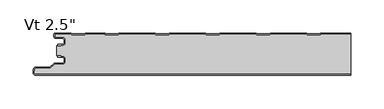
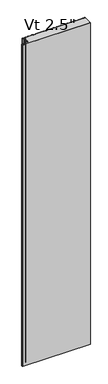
"""IFC4 building model written with IfcOpenShell, lengths in millimetres: plate geometry."""

from ifc_helpers import new_model, si_unit, point, frame, frame_2d, origin, origin_with_axes, place, context, project, spatial, polyline, circle_curve, trimmed, segment, composite_curve, outline, extrude, source, transform, mapped, element, save
from ifc_brep_helpers import plane_surface, cylinder_surface, revolved_surface, advanced_brep


def plate_cc331f6b(model_context):
    return source(origin(), model_context, "Body", "SolidModel", [
        advanced_brep(
        [(-219.9686911, -17.0015243, 2400.0), (-220.9686883, -18.0015275, 2400.0), (-219.9686911, -19.0015188, 2400.0), (-215.9684874, -19.0015188, 2400.0), (-215.9684874, -18.0015243, 2400.0), (-213.2762776, -18.0015243, 2400.0), (-209.9762819, -14.7015286, 2400.0), (-209.9762819, -10.3015374, 2400.0), (-213.2762774, -7.0015419, 2400.0), (-223.6962563, -7.0015419, 2400.0), (-225.4662505, -5.2315477, 2400.0), (-225.4662505, -1.0, 2400.0), (-200.9659739, -1.0, 2400.0), (-199.5803313, -2.2002391, 2400.0), (-180.205165, -2.2002391, 2400.0), (-178.819532, -1.0000084, 2400.0), (-150.1661166, -1.0000084, 2400.0), (-148.7804837, -2.2002391, 2400.0), (-129.4053174, -2.2002391, 2400.0), (-128.0196844, -1.0000084, 2400.0), (-73.966269, -1.0000084, 2400.0), (-72.5806361, -2.2002391, 2400.0), (-53.2054698, -2.2002391, 2400.0), (-51.8198368, -1.0000084, 2400.0), (2.2335786, -1.0000084, 2400.0), (3.6192115, -2.2002391, 2400.0), (22.9943778, -2.2002391, 2400.0), (24.3800108, -1.0000084, 2400.0), (78.4334262, -1.0000084, 2400.0), (79.8190591, -2.2002391, 2400.0), (99.1942254, -2.2002391, 2400.0), (100.5798584, -1.0000084, 2400.0), (154.6332738, -1.0000084, 2400.0), (156.0189067, -2.2002391, 2400.0), (175.394073, -2.2002391, 2400.0), (176.779706, -1.0000084, 2400.0), (221.9999998, -1.0000084, 2400.0), (221.9999998, -8.4e-06, 2400.0), (176.9288571, -8.4e-06, 2400.0), (176.0122402, -0.3417969, 2400.0), (175.0211926, -1.2002391, 2400.0), (156.3917872, -1.2002391, 2400.0), (155.4007395, -0.3417969, 2400.0), (154.4841226, -8.4e-06, 2400.0), (100.7290095, -8.4e-06, 2400.0), (99.8123926, -0.3417969, 2400.0), (98.821345, -1.2002391, 2400.0), (80.1919396, -1.2002391, 2400.0), (79.2008919, -0.3417969, 2400.0), (78.284275, -8.4e-06, 2400.0), (24.5291619, -8.4e-06, 2400.0), (23.612545, -0.3417969, 2400.0), (22.6214974, -1.2002391, 2400.0), (3.992092, -1.2002391, 2400.0), (3.0010443, -0.3417969, 2400.0), (2.0844274, -8.4e-06, 2400.0), (-51.6706857, -8.4e-06, 2400.0), (-52.5873026, -0.3417969, 2400.0), (-53.5783502, -1.2002391, 2400.0), (-72.2077556, -1.2002391, 2400.0), (-73.1988033, -0.3417969, 2400.0), (-74.1154202, -8.4e-06, 2400.0), (-127.8705333, -8.4e-06, 2400.0), (-128.7871502, -0.3417969, 2400.0), (-129.7781978, -1.2002391, 2400.0), (-148.4076032, -1.2002391, 2400.0), (-149.3986509, -0.3417969, 2400.0), (-150.3152678, -8.4e-06, 2400.0), (-178.6703809, -8.4e-06, 2400.0), (-179.5869978, -0.3417969, 2400.0), (-180.5780454, -1.2002391, 2400.0), (-199.2074508, -1.2002391, 2400.0), (-200.1984985, -0.3417969, 2400.0), (-201.1152068, -8.4e-06, 2400.0), (-225.0662544, 0.0, 2400.0), (-226.4662505, -1.3999962, 2400.0), (-226.4662505, -5.2315477, 2400.0), (-223.6962563, -8.0015419, 2400.0), (-213.2762774, -8.0015419, 2400.0), (-210.9762819, -10.3015374, 2400.0), (-210.9762819, -14.7015286, 2400.0), (-213.2762776, -17.0015243, 2400.0), (-219.9686911, -17.0015243, 0.0), (-213.2762776, -17.0015243, 0.0), (-210.9762819, -14.7015286, 0.0), (-210.9762819, -10.3015374, 0.0), (-213.2762774, -8.0015419, 0.0), (-223.6962563, -8.0015419, 0.0), (-226.4662505, -5.2315477, 0.0), (-226.4662505, -1.3999962, 0.0), (-225.0662544, 0.0, 0.0), (-201.1151154, 0.0, 0.0), (-200.1984985, -0.3417969, 0.0), (-199.2074508, -1.2002391, 0.0), (-180.5780454, -1.2002391, 0.0), (-179.5869978, -0.3417969, 0.0), (-178.6703809, -8.4e-06, 0.0), (-150.3152678, -8.4e-06, 0.0), (-149.3986509, -0.3417969, 0.0), (-148.4076032, -1.2002391, 0.0), (-129.7781978, -1.2002391, 0.0), (-128.7871502, -0.3417969, 0.0), (-127.8705333, -8.4e-06, 0.0), (-74.1154202, -8.4e-06, 0.0), (-73.1988033, -0.3417969, 0.0), (-72.2077556, -1.2002391, 0.0), (-53.5783502, -1.2002391, 0.0), (-52.5873026, -0.3417969, 0.0), (-51.6706857, -8.4e-06, 0.0), (2.0844274, -8.4e-06, 0.0), (3.0010443, -0.3417969, 0.0), (3.992092, -1.2002391, 0.0), (22.6214974, -1.2002391, 0.0), (23.612545, -0.3417969, 0.0), (24.5291619, -8.4e-06, 0.0), (78.284275, -8.4e-06, 0.0), (79.2008919, -0.3417969, 0.0), (80.1919396, -1.2002391, 0.0), (98.821345, -1.2002391, 0.0), (99.8123926, -0.3417969, 0.0), (100.7290095, -8.4e-06, 0.0), (154.4841226, -8.4e-06, 0.0), (155.4007395, -0.3417969, 0.0), (156.3917872, -1.2002391, 0.0), (175.0211926, -1.2002391, 0.0), (176.0122402, -0.3417969, 0.0), (176.9288571, -8.4e-06, 0.0), (221.9999998, -8.4e-06, 0.0), (221.9999998, -1.0000084, 0.0), (176.779706, -1.0000084, 0.0), (175.394073, -2.2002391, 0.0), (156.0189067, -2.2002391, 0.0), (154.6332738, -1.0000084, 0.0), (100.5798584, -1.0000084, 0.0), (99.1942254, -2.2002391, 0.0), (79.8190591, -2.2002391, 0.0), (78.4334262, -1.0000084, 0.0), (24.3800108, -1.0000084, 0.0), (22.9943778, -2.2002391, 0.0), (3.6192115, -2.2002391, 0.0), (2.2335786, -1.0000084, 0.0), (-51.8198368, -1.0000084, 0.0), (-53.2054698, -2.2002391, 0.0), (-72.5806361, -2.2002391, 0.0), (-73.966269, -1.0000084, 0.0), (-128.0196844, -1.0000084, 0.0), (-129.4053174, -2.2002391, 0.0), (-148.7804837, -2.2002391, 0.0), (-150.1661166, -1.0000084, 0.0), (-178.819532, -1.0000084, 0.0), (-180.205165, -2.2002391, 0.0), (-199.5803313, -2.2002391, 0.0), (-200.9659739, -1.0, 0.0), (-225.4662505, -1.0, 0.0), (-225.4662505, -5.2315477, 0.0), (-223.6962563, -7.0015419, 0.0), (-213.2762774, -7.0015419, 0.0), (-209.9762819, -10.3015374, 0.0), (-209.9762819, -14.7015286, 0.0), (-213.2762776, -18.0015243, 0.0), (-215.9684874, -18.0015243, 0.0), (-215.9684874, -19.0015188, 0.0), (-219.9686911, -19.0015188, 0.0), (-220.9686883, -18.0015275, 0.0)],
        [
            (0, 1, circle_curve(frame((-219.9686911, -18.0015215, 2400.0), z_axis=(0.0, 0.0, 1.0), x_axis=(1.0, 0.0, 0.0)), 0.9999973)),
            (1, 2, circle_curve(frame((-219.9686911, -18.0015216, 2400.0), z_axis=(0.0, 0.0, 1.0), x_axis=(1.0, 0.0, 0.0)), 0.9999972)),
            (2, 3),
            (3, 4),
            (4, 5),
            (5, 6, circle_curve(frame((-213.2762776, -14.7015286, 2400.0), z_axis=(0.0, 0.0, 1.0), x_axis=(1.0, 0.0, 0.0)), 3.2999957)),
            (6, 7),
            (7, 8, circle_curve(frame((-213.2762774, -10.3015374, 2400.0), z_axis=(0.0, 0.0, 1.0), x_axis=(1.0, 0.0, 0.0)), 3.2999955)),
            (8, 9),
            (9, 10, circle_curve(frame((-223.6962563, -5.2315477, 2400.0), z_axis=(0.0, 0.0, -1.0), x_axis=(1.0, 0.0, 0.0)), 1.7699942)),
            (10, 11),
            (11, 12),
            (12, 13),
            (13, 14),
            (14, 15),
            (15, 16),
            (16, 17),
            (17, 18),
            (18, 19),
            (19, 20),
            (20, 21),
            (21, 22),
            (22, 23),
            (23, 24),
            (24, 25),
            (25, 26),
            (26, 27),
            (27, 28),
            (28, 29),
            (29, 30),
            (30, 31),
            (31, 32),
            (32, 33),
            (33, 34),
            (34, 35),
            (35, 36),
            (36, 37),
            (37, 38),
            (38, 39, circle_curve(frame((176.9288571, -1.4000056, 2400.0), z_axis=(0.0, 0.0, 1.0), x_axis=(1.0, 0.0, 0.0)), 1.3999972)),
            (39, 40),
            (40, 41),
            (41, 42),
            (42, 43, circle_curve(frame((154.4841226, -1.4000056, 2400.0), z_axis=(0.0, 0.0, 1.0), x_axis=(1.0, 0.0, 0.0)), 1.3999972)),
            (43, 44),
            (44, 45, circle_curve(frame((100.7290095, -1.4000056, 2400.0), z_axis=(0.0, 0.0, 1.0), x_axis=(1.0, 0.0, 0.0)), 1.3999972)),
            (45, 46),
            (46, 47),
            (47, 48),
            (48, 49, circle_curve(frame((78.284275, -1.4000056, 2400.0), z_axis=(0.0, 0.0, 1.0), x_axis=(1.0, 0.0, 0.0)), 1.3999972)),
            (49, 50),
            (50, 51, circle_curve(frame((24.5291619, -1.4000056, 2400.0), z_axis=(0.0, 0.0, 1.0), x_axis=(1.0, 0.0, 0.0)), 1.3999972)),
            (51, 52),
            (52, 53),
            (53, 54),
            (54, 55, circle_curve(frame((2.0844274, -1.4000056, 2400.0), z_axis=(0.0, 0.0, 1.0), x_axis=(1.0, 0.0, 0.0)), 1.3999972)),
            (55, 56),
            (56, 57, circle_curve(frame((-51.6706857, -1.4000056, 2400.0), z_axis=(0.0, 0.0, 1.0), x_axis=(1.0, 0.0, 0.0)), 1.3999972)),
            (57, 58),
            (58, 59),
            (59, 60),
            (60, 61, circle_curve(frame((-74.1154202, -1.4000056, 2400.0), z_axis=(0.0, 0.0, 1.0), x_axis=(1.0, 0.0, 0.0)), 1.3999972)),
            (61, 62),
            (62, 63, circle_curve(frame((-127.8705333, -1.4000056, 2400.0), z_axis=(0.0, 0.0, 1.0), x_axis=(1.0, 0.0, 0.0)), 1.3999972)),
            (63, 64),
            (64, 65),
            (65, 66),
            (66, 67, circle_curve(frame((-150.3152678, -1.4000056, 2400.0), z_axis=(0.0, 0.0, 1.0), x_axis=(1.0, 0.0, 0.0)), 1.3999972)),
            (67, 68),
            (68, 69, circle_curve(frame((-178.6703809, -1.4000056, 2400.0), z_axis=(0.0, 0.0, 1.0), x_axis=(1.0, 0.0, 0.0)), 1.3999972)),
            (69, 70),
            (70, 71),
            (71, 72),
            (72, 73, circle_curve(frame((-201.1151154, -1.4000056, 2400.0), z_axis=(0.0, 0.0, 1.0), x_axis=(1.0, 0.0, 0.0)), 1.3999972)),
            (73, 74),
            (74, 75, circle_curve(frame((-225.0662544, -1.3999962, 2400.0), z_axis=(0.0, 0.0, 1.0), x_axis=(1.0, 0.0, 0.0)), 1.3999962)),
            (75, 76),
            (76, 77, circle_curve(frame((-223.6962563, -5.2315477, 2400.0), z_axis=(0.0, 0.0, 1.0), x_axis=(1.0, 0.0, 0.0)), 2.7699942)),
            (77, 78),
            (78, 79, circle_curve(frame((-213.2762774, -10.3015374, 2400.0), z_axis=(0.0, 0.0, -1.0), x_axis=(1.0, 0.0, 0.0)), 2.2999955)),
            (79, 80),
            (80, 81, circle_curve(frame((-213.2762776, -14.7015286, 2400.0), z_axis=(0.0, 0.0, -1.0), x_axis=(1.0, 0.0, 0.0)), 2.2999957)),
            (81, 0),
            (82, 83),
            (83, 84, circle_curve(frame((-213.2762776, -14.7015286, 0.0), z_axis=(0.0, 0.0, 1.0), x_axis=(1.0, 0.0, 0.0)), 2.2999957)),
            (84, 85),
            (85, 86, circle_curve(frame((-213.2762774, -10.3015374, 0.0), z_axis=(0.0, 0.0, 1.0), x_axis=(1.0, 0.0, 0.0)), 2.2999955)),
            (86, 87),
            (87, 88, circle_curve(frame((-223.6962563, -5.2315477, 0.0), z_axis=(0.0, 0.0, -1.0), x_axis=(1.0, 0.0, 0.0)), 2.7699942)),
            (88, 89),
            (89, 90, circle_curve(frame((-225.0662544, -1.3999962, 0.0), z_axis=(0.0, 0.0, -1.0), x_axis=(1.0, 0.0, 0.0)), 1.3999962)),
            (90, 91),
            (91, 92, circle_curve(frame((-201.1151154, -1.4000056, 0.0), z_axis=(0.0, 0.0, -1.0), x_axis=(1.0, 0.0, 0.0)), 1.3999972)),
            (92, 93),
            (93, 94),
            (94, 95),
            (95, 96, circle_curve(frame((-178.6703809, -1.4000056, 0.0), z_axis=(0.0, 0.0, -1.0), x_axis=(1.0, 0.0, 0.0)), 1.3999972)),
            (96, 97),
            (97, 98, circle_curve(frame((-150.3152678, -1.4000056, 0.0), z_axis=(0.0, 0.0, -1.0), x_axis=(1.0, 0.0, 0.0)), 1.3999972)),
            (98, 99),
            (99, 100),
            (100, 101),
            (101, 102, circle_curve(frame((-127.8705333, -1.4000056, 0.0), z_axis=(0.0, 0.0, -1.0), x_axis=(1.0, 0.0, 0.0)), 1.3999972)),
            (102, 103),
            (103, 104, circle_curve(frame((-74.1154202, -1.4000056, 0.0), z_axis=(0.0, 0.0, -1.0), x_axis=(1.0, 0.0, 0.0)), 1.3999972)),
            (104, 105),
            (105, 106),
            (106, 107),
            (107, 108, circle_curve(frame((-51.6706857, -1.4000056, 0.0), z_axis=(0.0, 0.0, -1.0), x_axis=(1.0, 0.0, 0.0)), 1.3999972)),
            (108, 109),
            (109, 110, circle_curve(frame((2.0844274, -1.4000056, 0.0), z_axis=(0.0, 0.0, -1.0), x_axis=(1.0, 0.0, 0.0)), 1.3999972)),
            (110, 111),
            (111, 112),
            (112, 113),
            (113, 114, circle_curve(frame((24.5291619, -1.4000056, 0.0), z_axis=(0.0, 0.0, -1.0), x_axis=(1.0, 0.0, 0.0)), 1.3999972)),
            (114, 115),
            (115, 116, circle_curve(frame((78.284275, -1.4000056, 0.0), z_axis=(0.0, 0.0, -1.0), x_axis=(1.0, 0.0, 0.0)), 1.3999972)),
            (116, 117),
            (117, 118),
            (118, 119),
            (119, 120, circle_curve(frame((100.7290095, -1.4000056, 0.0), z_axis=(0.0, 0.0, -1.0), x_axis=(1.0, 0.0, 0.0)), 1.3999972)),
            (120, 121),
            (121, 122, circle_curve(frame((154.4841226, -1.4000056, 0.0), z_axis=(0.0, 0.0, -1.0), x_axis=(1.0, 0.0, 0.0)), 1.3999972)),
            (122, 123),
            (123, 124),
            (124, 125),
            (125, 126, circle_curve(frame((176.9288571, -1.4000056, 0.0), z_axis=(0.0, 0.0, -1.0), x_axis=(1.0, 0.0, 0.0)), 1.3999972)),
            (126, 127),
            (127, 128),
            (128, 129),
            (129, 130),
            (130, 131),
            (131, 132),
            (132, 133),
            (133, 134),
            (134, 135),
            (135, 136),
            (136, 137),
            (137, 138),
            (138, 139),
            (139, 140),
            (140, 141),
            (141, 142),
            (142, 143),
            (143, 144),
            (144, 145),
            (145, 146),
            (146, 147),
            (147, 148),
            (148, 149),
            (149, 150),
            (150, 151),
            (151, 152),
            (152, 153),
            (153, 154),
            (154, 155, circle_curve(frame((-223.6962563, -5.2315477, 0.0), z_axis=(0.0, 0.0, 1.0), x_axis=(1.0, 0.0, 0.0)), 1.7699942)),
            (155, 156),
            (156, 157, circle_curve(frame((-213.2762774, -10.3015374, 0.0), z_axis=(0.0, 0.0, -1.0), x_axis=(1.0, 0.0, 0.0)), 3.2999955)),
            (157, 158),
            (158, 159, circle_curve(frame((-213.2762776, -14.7015286, 0.0), z_axis=(0.0, 0.0, -1.0), x_axis=(1.0, 0.0, 0.0)), 3.2999957)),
            (159, 160),
            (160, 161),
            (161, 162),
            (162, 163, circle_curve(frame((-219.9686911, -18.0015216, 0.0), z_axis=(0.0, 0.0, -1.0), x_axis=(1.0, 0.0, 0.0)), 0.9999972)),
            (163, 82, circle_curve(frame((-219.9686911, -18.0015215, 0.0), z_axis=(0.0, 0.0, -1.0), x_axis=(1.0, 0.0, 0.0)), 0.9999973)),
            (36, 128),
            (127, 37),
            (81, 83),
            (82, 0),
            (80, 84),
            (79, 85),
            (78, 86),
            (77, 87),
            (76, 88),
            (75, 89),
            (74, 90),
            (73, 91),
            (72, 92),
            (71, 93),
            (70, 94),
            (69, 95),
            (68, 96),
            (67, 97),
            (66, 98),
            (65, 99),
            (64, 100),
            (63, 101),
            (62, 102),
            (61, 103),
            (60, 104),
            (59, 105),
            (58, 106),
            (57, 107),
            (56, 108),
            (55, 109),
            (54, 110),
            (53, 111),
            (52, 112),
            (51, 113),
            (50, 114),
            (49, 115),
            (48, 116),
            (47, 117),
            (46, 118),
            (45, 119),
            (44, 120),
            (43, 121),
            (42, 122),
            (41, 123),
            (40, 124),
            (39, 125),
            (38, 126),
            (35, 129),
            (34, 130),
            (33, 131),
            (32, 132),
            (31, 133),
            (30, 134),
            (29, 135),
            (28, 136),
            (27, 137),
            (26, 138),
            (25, 139),
            (24, 140),
            (23, 141),
            (22, 142),
            (21, 143),
            (20, 144),
            (19, 145),
            (18, 146),
            (17, 147),
            (16, 148),
            (15, 149),
            (14, 150),
            (13, 151),
            (12, 152),
            (11, 153),
            (10, 154),
            (9, 155),
            (8, 156),
            (7, 157),
            (6, 158),
            (5, 159),
            (4, 160),
            (3, 161),
            (2, 162),
            (1, 163),
        ],
        [
            plane_surface(frame((286.0000002, -8.4e-06, 2400.0), z_axis=(0.0, 0.0, 1.0), x_axis=(0.0, 1.0, 0.0))),
            plane_surface(frame((286.0000002, -8.4e-06, 0.0), z_axis=(0.0, 0.0, -1.0), x_axis=(0.0, 1.0, 0.0))),
            plane_surface(frame((221.9999998, -73.5000084, 2400.0), z_axis=(1.0, 0.0, 0.0), x_axis=(0.0, 0.0, -1.0))),
            plane_surface(frame((-219.9686911, -17.0015243, 2400.0), z_axis=(0.0, 1.0, 0.0), x_axis=(0.0, 0.0, -1.0))),
            revolved_surface(polyline([(-210.97628189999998, -14.7015286, 0.0), (-210.97628189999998, -14.7015286, 2400.0)]), (-213.2762776, -14.7015286, 2400.0), (0.0, 0.0, -1.0)),
            plane_surface(frame((-210.9762819, -14.7015286, 2400.0), z_axis=(-1.0, 0.0, 0.0), x_axis=(0.0, 0.0, -1.0))),
            revolved_surface(polyline([(-210.9762819, -10.3015374, 0.0), (-210.9762819, -10.3015374, 2400.0)]), (-213.2762774, -10.3015374, 2400.0), (0.0, 0.0, -1.0)),
            plane_surface(frame((-213.2762774, -8.0015419, 2400.0), z_axis=(0.0, -1.0, 0.0), x_axis=(0.0, 0.0, -1.0))),
            cylinder_surface(frame((-223.6962563, -5.2315477, 2400.0), z_axis=(0.0, 0.0, 1.0), x_axis=(1.0, 0.0, 0.0)), 2.7699942),
            plane_surface(frame((-226.4662505, -5.2315477, 2400.0), z_axis=(-1.0, 0.0, 0.0), x_axis=(0.0, 0.0, -1.0))),
            cylinder_surface(frame((-225.0662544, -1.3999962, 2400.0), z_axis=(0.0, 0.0, 1.0), x_axis=(1.0, 0.0, 0.0)), 1.3999962),
            plane_surface(frame((-225.0662544, 0.0, 2400.0), z_axis=(0.0, 1.0, 0.0), x_axis=(0.0, 0.0, -1.0))),
            cylinder_surface(frame((-201.1151154, -1.4000056, 2400.0), z_axis=(0.0, 0.0, 1.0), x_axis=(1.0, 0.0, 0.0)), 1.3999972),
            plane_surface(frame((-200.1984985, -0.3417969, 2400.0), z_axis=(0.6547276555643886, 0.755864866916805, 0.0), x_axis=(0.0, 0.0, -1.0))),
            plane_surface(frame((-189.8927481, -1.2002391, 2400.0), z_axis=(0.0, 1.0, 0.0), x_axis=(0.0, 0.0, -1.0))),
            plane_surface(frame((-180.5780454, -1.2002391, 2400.0), z_axis=(-0.6547276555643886, 0.755864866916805, 0.0), x_axis=(0.0, 0.0, -1.0))),
            cylinder_surface(frame((-178.6703809, -1.4000056, 2400.0), z_axis=(0.0, 0.0, 1.0), x_axis=(1.0, 0.0, 0.0)), 1.3999972),
            plane_surface(frame((-178.6703809, -8.4e-06, 2400.0), z_axis=(0.0, 1.0, 0.0), x_axis=(0.0, 0.0, -1.0))),
            cylinder_surface(frame((-150.3152678, -1.4000056, 2400.0), z_axis=(0.0, 0.0, 1.0), x_axis=(1.0, 0.0, 0.0)), 1.3999972),
            plane_surface(frame((-149.3986509, -0.3417969, 2400.0), z_axis=(0.6547276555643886, 0.755864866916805, 0.0), x_axis=(0.0, 0.0, -1.0))),
            plane_surface(frame((-139.0929005, -1.2002391, 2400.0), z_axis=(0.0, 1.0, 0.0), x_axis=(0.0, 0.0, -1.0))),
            plane_surface(frame((-129.7781978, -1.2002391, 2400.0), z_axis=(-0.6547276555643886, 0.755864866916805, 0.0), x_axis=(0.0, 0.0, -1.0))),
            cylinder_surface(frame((-127.8705333, -1.4000056, 2400.0), z_axis=(0.0, 0.0, 1.0), x_axis=(1.0, 0.0, 0.0)), 1.3999972),
            plane_surface(frame((-127.8705333, -8.4e-06, 2400.0), z_axis=(0.0, 1.0, 0.0), x_axis=(0.0, 0.0, -1.0))),
            cylinder_surface(frame((-74.1154202, -1.4000056, 2400.0), z_axis=(0.0, 0.0, 1.0), x_axis=(1.0, 0.0, 0.0)), 1.3999972),
            plane_surface(frame((-73.1988033, -0.3417969, 2400.0), z_axis=(0.6547276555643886, 0.755864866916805, 0.0), x_axis=(0.0, 0.0, -1.0))),
            plane_surface(frame((-62.8930529, -1.2002391, 2400.0), z_axis=(0.0, 1.0, 0.0), x_axis=(0.0, 0.0, -1.0))),
            plane_surface(frame((-53.5783502, -1.2002391, 2400.0), z_axis=(-0.6547276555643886, 0.755864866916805, 0.0), x_axis=(0.0, 0.0, -1.0))),
            cylinder_surface(frame((-51.6706857, -1.4000056, 2400.0), z_axis=(0.0, 0.0, 1.0), x_axis=(1.0, 0.0, 0.0)), 1.3999972),
            plane_surface(frame((-51.6706857, -8.4e-06, 2400.0), z_axis=(0.0, 1.0, 0.0), x_axis=(0.0, 0.0, -1.0))),
            cylinder_surface(frame((2.0844274, -1.4000056, 2400.0), z_axis=(0.0, 0.0, 1.0), x_axis=(1.0, 0.0, 0.0)), 1.3999972),
            plane_surface(frame((3.0010443, -0.3417969, 2400.0), z_axis=(0.6547276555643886, 0.755864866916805, 0.0), x_axis=(0.0, 0.0, -1.0))),
            plane_surface(frame((13.3067947, -1.2002391, 2400.0), z_axis=(0.0, 1.0, 0.0), x_axis=(0.0, 0.0, -1.0))),
            plane_surface(frame((22.6214974, -1.2002391, 2400.0), z_axis=(-0.6547276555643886, 0.755864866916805, 0.0), x_axis=(0.0, 0.0, -1.0))),
            cylinder_surface(frame((24.5291619, -1.4000056, 2400.0), z_axis=(0.0, 0.0, 1.0), x_axis=(1.0, 0.0, 0.0)), 1.3999972),
            plane_surface(frame((24.5291619, -8.4e-06, 2400.0), z_axis=(0.0, 1.0, 0.0), x_axis=(0.0, 0.0, -1.0))),
            cylinder_surface(frame((78.284275, -1.4000056, 2400.0), z_axis=(0.0, 0.0, 1.0), x_axis=(1.0, 0.0, 0.0)), 1.3999972),
            plane_surface(frame((79.2008919, -0.3417969, 2400.0), z_axis=(0.6547276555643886, 0.755864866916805, 0.0), x_axis=(0.0, 0.0, -1.0))),
            plane_surface(frame((89.5066423, -1.2002391, 2400.0), z_axis=(0.0, 1.0, 0.0), x_axis=(0.0, 0.0, -1.0))),
            plane_surface(frame((98.821345, -1.2002391, 2400.0), z_axis=(-0.6547276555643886, 0.755864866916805, 0.0), x_axis=(0.0, 0.0, -1.0))),
            cylinder_surface(frame((100.7290095, -1.4000056, 2400.0), z_axis=(0.0, 0.0, 1.0), x_axis=(1.0, 0.0, 0.0)), 1.3999972),
            plane_surface(frame((100.7290095, -8.4e-06, 2400.0), z_axis=(0.0, 1.0, 0.0), x_axis=(0.0, 0.0, -1.0))),
            cylinder_surface(frame((154.4841226, -1.4000056, 2400.0), z_axis=(0.0, 0.0, 1.0), x_axis=(1.0, 0.0, 0.0)), 1.3999972),
            plane_surface(frame((155.4007395, -0.3417969, 2400.0), z_axis=(0.6547276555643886, 0.755864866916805, 0.0), x_axis=(0.0, 0.0, -1.0))),
            plane_surface(frame((165.7064899, -1.2002391, 2400.0), z_axis=(0.0, 1.0, 0.0), x_axis=(0.0, 0.0, -1.0))),
            plane_surface(frame((175.0211926, -1.2002391, 2400.0), z_axis=(-0.6547276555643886, 0.755864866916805, 0.0), x_axis=(0.0, 0.0, -1.0))),
            cylinder_surface(frame((176.9288571, -1.4000056, 2400.0), z_axis=(0.0, 0.0, 1.0), x_axis=(1.0, 0.0, 0.0)), 1.3999972),
            plane_surface(frame((176.9288571, -8.4e-06, 2400.0), z_axis=(0.0, 1.0, 0.0), x_axis=(0.0, 0.0, -1.0))),
            plane_surface(frame((230.8331214, -1.0000084, 2400.0), z_axis=(0.0, -1.0, 0.0), x_axis=(0.0, 0.0, -1.0))),
            plane_surface(frame((176.779706, -1.0000084, 2400.0), z_axis=(0.6547276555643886, -0.755864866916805, 0.0), x_axis=(0.0, 0.0, -1.0))),
            plane_surface(frame((175.394073, -2.2002391, 2400.0), z_axis=(0.0, -1.0, 0.0), x_axis=(0.0, 0.0, -1.0))),
            plane_surface(frame((156.0189067, -2.2002391, 2400.0), z_axis=(-0.6547276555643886, -0.755864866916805, 0.0), x_axis=(0.0, 0.0, -1.0))),
            plane_surface(frame((154.6332738, -1.0000084, 2400.0), z_axis=(0.0, -1.0, 0.0), x_axis=(0.0, 0.0, -1.0))),
            plane_surface(frame((100.5798584, -1.0000084, 2400.0), z_axis=(0.6547276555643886, -0.755864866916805, 0.0), x_axis=(0.0, 0.0, -1.0))),
            plane_surface(frame((99.1942254, -2.2002391, 2400.0), z_axis=(0.0, -1.0, 0.0), x_axis=(0.0, 0.0, -1.0))),
            plane_surface(frame((79.8190591, -2.2002391, 2400.0), z_axis=(-0.6547276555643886, -0.755864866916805, 0.0), x_axis=(0.0, 0.0, -1.0))),
            plane_surface(frame((78.4334262, -1.0000084, 2400.0), z_axis=(0.0, -1.0, 0.0), x_axis=(0.0, 0.0, -1.0))),
            plane_surface(frame((24.3800108, -1.0000084, 2400.0), z_axis=(0.6547276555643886, -0.755864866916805, 0.0), x_axis=(0.0, 0.0, -1.0))),
            plane_surface(frame((22.9943778, -2.2002391, 2400.0), z_axis=(0.0, -1.0, 0.0), x_axis=(0.0, 0.0, -1.0))),
            plane_surface(frame((3.6192115, -2.2002391, 2400.0), z_axis=(-0.6547276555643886, -0.755864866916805, 0.0), x_axis=(0.0, 0.0, -1.0))),
            plane_surface(frame((2.2335786, -1.0000084, 2400.0), z_axis=(0.0, -1.0, 0.0), x_axis=(0.0, 0.0, -1.0))),
            plane_surface(frame((-51.8198368, -1.0000084, 2400.0), z_axis=(0.6547276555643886, -0.755864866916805, 0.0), x_axis=(0.0, 0.0, -1.0))),
            plane_surface(frame((-53.2054698, -2.2002391, 2400.0), z_axis=(0.0, -1.0, 0.0), x_axis=(0.0, 0.0, -1.0))),
            plane_surface(frame((-72.5806361, -2.2002391, 2400.0), z_axis=(-0.6547276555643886, -0.755864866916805, 0.0), x_axis=(0.0, 0.0, -1.0))),
            plane_surface(frame((-73.966269, -1.0000084, 2400.0), z_axis=(0.0, -1.0, 0.0), x_axis=(0.0, 0.0, -1.0))),
            plane_surface(frame((-128.0196844, -1.0000084, 2400.0), z_axis=(0.6547276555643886, -0.755864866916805, 0.0), x_axis=(0.0, 0.0, -1.0))),
            plane_surface(frame((-129.4053174, -2.2002391, 2400.0), z_axis=(0.0, -1.0, 0.0), x_axis=(0.0, 0.0, -1.0))),
            plane_surface(frame((-148.7804837, -2.2002391, 2400.0), z_axis=(-0.6547276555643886, -0.755864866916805, 0.0), x_axis=(0.0, 0.0, -1.0))),
            plane_surface(frame((-150.1661166, -1.0000084, 2400.0), z_axis=(0.0, -1.0, 0.0), x_axis=(0.0, 0.0, -1.0))),
            plane_surface(frame((-178.819532, -1.0000084, 2400.0), z_axis=(0.6547276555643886, -0.755864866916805, 0.0), x_axis=(0.0, 0.0, -1.0))),
            plane_surface(frame((-180.205165, -2.2002391, 2400.0), z_axis=(0.0, -1.0, 0.0), x_axis=(0.0, 0.0, -1.0))),
            plane_surface(frame((-199.5803313, -2.2002391, 2400.0), z_axis=(-0.6547276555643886, -0.755864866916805, 0.0), x_axis=(0.0, 0.0, -1.0))),
            plane_surface(frame((-200.9659739, -1.0, 2400.0), z_axis=(0.0, -1.0, 0.0), x_axis=(0.0, 0.0, -1.0))),
            plane_surface(frame((-225.4662505, -1.0, 2400.0), z_axis=(1.0, 0.0, 0.0), x_axis=(0.0, 0.0, -1.0))),
            revolved_surface(polyline([(-221.92626209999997, -5.2315477, 0.0), (-221.92626209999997, -5.2315477, 2400.0)]), (-223.6962563, -5.2315477, 2400.0), (0.0, 0.0, -1.0)),
            plane_surface(frame((-223.6962563, -7.0015419, 2400.0), z_axis=(0.0, 1.0, 0.0), x_axis=(0.0, 0.0, -1.0))),
            cylinder_surface(frame((-213.2762774, -10.3015374, 2400.0), z_axis=(0.0, 0.0, 1.0), x_axis=(1.0, 0.0, 0.0)), 3.2999955),
            plane_surface(frame((-209.9762819, -10.3015374, 2400.0), z_axis=(1.0, 0.0, 0.0), x_axis=(0.0, 0.0, -1.0))),
            cylinder_surface(frame((-213.2762776, -14.7015286, 2400.0), z_axis=(0.0, 0.0, 1.0), x_axis=(1.0, 0.0, 0.0)), 3.2999957),
            plane_surface(frame((-213.2762776, -18.0015243, 2400.0), z_axis=(0.0, -1.0, 0.0), x_axis=(0.0, 0.0, -1.0))),
            plane_surface(frame((-215.9684874, -18.0015243, 2400.0), z_axis=(1.0, 0.0, 0.0), x_axis=(0.0, 0.0, -1.0))),
            plane_surface(frame((-215.9684874, -19.0015188, 2400.0), z_axis=(0.0, -1.0, 0.0), x_axis=(0.0, 0.0, -1.0))),
            cylinder_surface(frame((-219.9686911, -18.0015216, 2400.0), z_axis=(0.0, 0.0, 1.0), x_axis=(1.0, 0.0, 0.0)), 0.9999972),
            cylinder_surface(frame((-219.9686911, -18.0015215, 2400.0), z_axis=(0.0, 0.0, 1.0), x_axis=(1.0, 0.0, 0.0)), 0.9999973),
        ],
        [
            (0, [[1, 2, 3, 4, 5, 6, 7, 8, 9, 10, 11, 12, 13, 14, 15, 16, 17, 18, 19, 20, 21, 22, 23, 24, 25, 26, 27, 28, 29, 30, 31, 32, 33, 34, 35, 36, 37, 38, 39, 40, 41, 42, 43, 44, 45, 46, 47, 48, 49, 50, 51, 52, 53, 54, 55, 56, 57, 58, 59, 60, 61, 62, 63, 64, 65, 66, 67, 68, 69, 70, 71, 72, 73, 74, 75, 76, 77, 78, 79, 80, 81, 82]]),
            (1, [[83, 84, 85, 86, 87, 88, 89, 90, 91, 92, 93, 94, 95, 96, 97, 98, 99, 100, 101, 102, 103, 104, 105, 106, 107, 108, 109, 110, 111, 112, 113, 114, 115, 116, 117, 118, 119, 120, 121, 122, 123, 124, 125, 126, 127, 128, 129, 130, 131, 132, 133, 134, 135, 136, 137, 138, 139, 140, 141, 142, 143, 144, 145, 146, 147, 148, 149, 150, 151, 152, 153, 154, 155, 156, 157, 158, 159, 160, 161, 162, 163, 164]]),
            (2, [[165, -128, 166, -37]]),
            (3, [[167, -83, 168, -82]]),
            (4, [[169, -84, -167, -81]]),
            (5, [[170, -85, -169, -80]]),
            (6, [[171, -86, -170, -79]]),
            (7, [[172, -87, -171, -78]]),
            (8, [[173, -88, -172, -77]]),
            (9, [[174, -89, -173, -76]]),
            (10, [[175, -90, -174, -75]]),
            (11, [[176, -91, -175, -74]]),
            (12, [[177, -92, -176, -73]]),
            (13, [[178, -93, -177, -72]]),
            (14, [[179, -94, -178, -71]]),
            (15, [[180, -95, -179, -70]]),
            (16, [[181, -96, -180, -69]]),
            (17, [[182, -97, -181, -68]]),
            (18, [[183, -98, -182, -67]]),
            (19, [[184, -99, -183, -66]]),
            (20, [[185, -100, -184, -65]]),
            (21, [[186, -101, -185, -64]]),
            (22, [[187, -102, -186, -63]]),
            (23, [[188, -103, -187, -62]]),
            (24, [[189, -104, -188, -61]]),
            (25, [[190, -105, -189, -60]]),
            (26, [[191, -106, -190, -59]]),
            (27, [[192, -107, -191, -58]]),
            (28, [[193, -108, -192, -57]]),
            (29, [[194, -109, -193, -56]]),
            (30, [[195, -110, -194, -55]]),
            (31, [[196, -111, -195, -54]]),
            (32, [[197, -112, -196, -53]]),
            (33, [[198, -113, -197, -52]]),
            (34, [[199, -114, -198, -51]]),
            (35, [[200, -115, -199, -50]]),
            (36, [[201, -116, -200, -49]]),
            (37, [[202, -117, -201, -48]]),
            (38, [[203, -118, -202, -47]]),
            (39, [[204, -119, -203, -46]]),
            (40, [[205, -120, -204, -45]]),
            (41, [[206, -121, -205, -44]]),
            (42, [[207, -122, -206, -43]]),
            (43, [[208, -123, -207, -42]]),
            (44, [[209, -124, -208, -41]]),
            (45, [[210, -125, -209, -40]]),
            (46, [[211, -126, -210, -39]]),
            (47, [[-38, -166, -127, -211]]),
            (48, [[-129, -165, -36, 212]]),
            (49, [[213, -130, -212, -35]]),
            (50, [[214, -131, -213, -34]]),
            (51, [[215, -132, -214, -33]]),
            (52, [[216, -133, -215, -32]]),
            (53, [[217, -134, -216, -31]]),
            (54, [[218, -135, -217, -30]]),
            (55, [[219, -136, -218, -29]]),
            (56, [[220, -137, -219, -28]]),
            (57, [[221, -138, -220, -27]]),
            (58, [[222, -139, -221, -26]]),
            (59, [[223, -140, -222, -25]]),
            (60, [[224, -141, -223, -24]]),
            (61, [[225, -142, -224, -23]]),
            (62, [[226, -143, -225, -22]]),
            (63, [[227, -144, -226, -21]]),
            (64, [[228, -145, -227, -20]]),
            (65, [[229, -146, -228, -19]]),
            (66, [[230, -147, -229, -18]]),
            (67, [[231, -148, -230, -17]]),
            (68, [[232, -149, -231, -16]]),
            (69, [[233, -150, -232, -15]]),
            (70, [[234, -151, -233, -14]]),
            (71, [[235, -152, -234, -13]]),
            (72, [[236, -153, -235, -12]]),
            (73, [[237, -154, -236, -11]]),
            (74, [[238, -155, -237, -10]]),
            (75, [[239, -156, -238, -9]]),
            (76, [[240, -157, -239, -8]]),
            (77, [[241, -158, -240, -7]]),
            (78, [[242, -159, -241, -6]]),
            (79, [[243, -160, -242, -5]]),
            (80, [[244, -161, -243, -4]]),
            (81, [[245, -162, -244, -3]]),
            (82, [[246, -163, -245, -2]]),
            (83, [[-168, -164, -246, -1]]),
        ],
    ),
        extrude(outline(composite_curve([segment(polyline([(-258.0087619, -59.6184987), (-257.5690674, -54.5944521)]), True, "CONTINUOUS"), segment(trimmed(circle_curve(frame_2d((-253.9198391, -55.2052532)), 3.6999926), [point((-257.5690674, -54.5944521))], [point((-253.9198391, -51.5052606))], False, "CARTESIAN"), True, "CONTINUOUS"), segment(polyline([(-253.9198391, -51.5052606), (-232.7773995, -51.5052606)]), True, "CONTINUOUS"), segment(trimmed(circle_curve(frame_2d((-232.7773995, -50.2052632)), 1.2999974), [point((-232.7773995, -51.5052606))], [point((-231.8581626, -51.1245001))], True, "CARTESIAN"), True, "CONTINUOUS"), segment(polyline([(-231.8581626, -51.1245001), (-227.0297451, -46.2960827)]), True, "CONTINUOUS"), segment(trimmed(circle_curve(frame_2d((-225.1205606, -48.2052672)), 2.6999946), [point((-227.0297451, -46.2960827))], [point((-225.1205606, -45.5052726))], False, "CARTESIAN"), True, "CONTINUOUS"), segment(polyline([(-225.1205606, -45.5052726), (-213.3096715, -45.5052726)]), True, "CONTINUOUS"), segment(trimmed(circle_curve(frame_2d((-213.3096715, -43.1552773)), 2.3499953), [point((-213.3096715, -45.5052726))], [point((-210.9596762, -43.1552773))], True, "CARTESIAN"), True, "CONTINUOUS"), segment(polyline([(-210.9596762, -43.1552773), (-210.9596762, -38.7552861)]), True, "CONTINUOUS"), segment(trimmed(circle_curve(frame_2d((-213.3096715, -38.7552861)), 2.3499953), [point((-210.9596762, -38.7552861))], [point((-213.3096715, -36.4052908))], True, "CARTESIAN"), True, "CONTINUOUS"), segment(polyline([(-213.3096715, -36.4052908), (-219.8289777, -36.4052908)]), True, "CONTINUOUS"), segment(trimmed(circle_curve(frame_2d((-219.7686906, -35.2068085)), 1.1999976), [point((-219.8289777, -36.4052908))], [point((-220.9683, -35.1762866))], False, "CARTESIAN"), True, "CONTINUOUS"), segment(trimmed(circle_curve(frame_2d((-219.7686906, -35.2068085)), 1.1999976), [point((-220.9683, -35.1762866))], [point((-219.767176, -34.0068119))], False, "CARTESIAN"), True, "CONTINUOUS"), segment(polyline([(-219.767176, -34.0068119), (-216.0087826, -34.0068119), (-216.0087826, -35.4052908), (-213.3096715, -35.4052908)]), True, "CONTINUOUS"), segment(trimmed(circle_curve(frame_2d((-213.3096715, -38.7552861)), 3.3499953), [point((-213.3096715, -35.4052908))], [point((-209.9596762, -38.7552861))], False, "CARTESIAN"), True, "CONTINUOUS"), segment(polyline([(-209.9596762, -38.7552861), (-209.9596762, -43.1552773)]), True, "CONTINUOUS"), segment(trimmed(circle_curve(frame_2d((-213.3096715, -43.1552773)), 3.3499953), [point((-209.9596762, -43.1552773))], [point((-213.3096715, -46.5052726))], False, "CARTESIAN"), True, "CONTINUOUS"), segment(polyline([(-213.3096715, -46.5052726), (-225.1205606, -46.5052726)]), True, "CONTINUOUS"), segment(trimmed(circle_curve(frame_2d((-225.1205606, -48.2052672)), 1.6999946), [point((-225.1205606, -46.5052726))], [point((-226.3226383, -47.0031895))], True, "CARTESIAN"), True, "CONTINUOUS"), segment(polyline([(-226.3226383, -47.0031895), (-231.8247094, -52.5052606), (-253.9198391, -52.5052606)]), True, "CONTINUOUS"), segment(trimmed(circle_curve(frame_2d((-253.9198391, -55.2052532)), 2.6999926), [point((-253.9198391, -52.5052606))], [point((-256.5765707, -54.7238626))], True, "CARTESIAN"), True, "CONTINUOUS"), segment(polyline([(-256.5765707, -54.7238626), (-257.0125697, -59.7056834)]), True, "CONTINUOUS"), segment(trimmed(circle_curve(frame_2d((-254.4521175, -59.9297691)), 2.5702393), [point((-257.0125697, -59.7056834))], [point((-254.5094458, -62.4993689))], True, "CARTESIAN"), True, "CONTINUOUS"), segment(polyline([(-254.5094458, -62.4993689), (221.9999998, -62.4993689), (221.9999998, -63.4997037), (-254.4521152, -63.5000084)]), True, "CONTINUOUS"), segment(trimmed(circle_curve(frame_2d((-254.4521175, -59.9297691)), 3.5702393), [point((-254.4521152, -63.5000084))], [point((-258.0087619, -59.6184987))], False, "CARTESIAN"), True, "CONTINUOUS")], self_intersect=False)), origin_with_axes(), (0.0, 0.0, 1.0), 2400.0),
        advanced_brep(
        [(-220.9683, -35.1708833, 2400.0), (-219.767176, -34.0014086, 2400.0), (-216.0087826, -34.0014086, 2400.0), (-216.0087826, -35.3998875, 2400.0), (-213.3096715, -35.3998875, 2400.0), (-209.9596762, -38.7498828, 2400.0), (-209.9596762, -43.149874, 2400.0), (-213.3096715, -46.4998693, 2400.0), (-225.1205606, -46.4998693, 2400.0), (-226.3226383, -46.9977862, 2400.0), (-231.8247094, -52.4998573, 2400.0), (-253.9198391, -52.4998573, 2400.0), (-256.5765707, -54.7184593, 2400.0), (-257.0125697, -59.7002802, 2400.0), (-254.4521175, -62.4946051, 2400.0), (221.9999998, -62.5000084, 2400.0), (221.9999998, -1.0000084, 2400.0), (176.779706, -1.0000084, 2400.0), (175.3940731, -2.2002391, 2400.0), (156.0189068, -2.2002391, 2400.0), (154.6332738, -1.0000084, 2400.0), (100.5798584, -1.0000084, 2400.0), (99.1942255, -2.2002391, 2400.0), (79.8190592, -2.2002391, 2400.0), (78.4334262, -1.0000084, 2400.0), (24.3800108, -1.0000084, 2400.0), (22.9943779, -2.2002391, 2400.0), (3.6192116, -2.2002391, 2400.0), (2.2335786, -1.0000084, 2400.0), (-51.8198368, -1.0000084, 2400.0), (-53.2054697, -2.2002391, 2400.0), (-72.580636, -2.2002391, 2400.0), (-73.966269, -1.0000084, 2400.0), (-128.0196844, -1.0000084, 2400.0), (-129.4053173, -2.2002391, 2400.0), (-148.7804836, -2.2002391, 2400.0), (-150.1661166, -1.0000084, 2400.0), (-178.819532, -1.0000084, 2400.0), (-180.2051649, -2.2002391, 2400.0), (-199.5803312, -2.2002391, 2400.0), (-200.9659738, -1.0, 2400.0), (-225.4662505, -1.0, 2400.0), (-225.4662505, -5.2315473, 2400.0), (-223.6962563, -7.0015415, 2400.0), (-213.2762777, -7.0015415, 2400.0), (-209.9762819, -10.3015374, 2400.0), (-209.9762819, -14.7015286, 2400.0), (-213.2762776, -18.0015243, 2400.0), (-215.9684874, -18.0015243, 2400.0), (-215.9684874, -19.0015188, 2400.0), (-219.968691, -19.0015188, 2400.0), (-220.9686882, -18.0015275, 2400.0), (-221.9999998, -19.0328392, 2400.0), (-221.9999998, -34.1391835, 2400.0), (-220.9683, -35.1708833, 0.0), (-221.9999998, -34.1391835, 0.0), (-221.9999998, -19.0328392, 0.0), (-220.9686882, -18.0015275, 0.0), (-219.968691, -19.0015188, 0.0), (-215.9684874, -19.0015188, 0.0), (-215.9684874, -18.0015243, 0.0), (-213.2762776, -18.0015243, 0.0), (-209.9762819, -14.7015286, 0.0), (-209.9762819, -10.3015374, 0.0), (-213.2762777, -7.0015415, 0.0), (-223.6962563, -7.0015415, 0.0), (-225.4662505, -5.2315473, 0.0), (-225.4662505, -1.0, 0.0), (-200.9659738, -1.0, 0.0), (-199.5803312, -2.2002391, 0.0), (-180.2051649, -2.2002391, 0.0), (-178.819532, -1.0000084, 0.0), (-150.1661166, -1.0000084, 0.0), (-148.7804836, -2.2002391, 0.0), (-129.4053173, -2.2002391, 0.0), (-128.0196844, -1.0000084, 0.0), (-73.966269, -1.0000084, 0.0), (-72.580636, -2.2002391, 0.0), (-53.2054697, -2.2002391, 0.0), (-51.8198368, -1.0000084, 0.0), (2.2335786, -1.0000084, 0.0), (3.6192116, -2.2002391, 0.0), (22.9943779, -2.2002391, 0.0), (24.3800108, -1.0000084, 0.0), (78.4334262, -1.0000084, 0.0), (79.8190592, -2.2002391, 0.0), (99.1942255, -2.2002391, 0.0), (100.5798584, -1.0000084, 0.0), (154.6332738, -1.0000084, 0.0), (156.0189068, -2.2002391, 0.0), (175.3940731, -2.2002391, 0.0), (176.779706, -1.0000084, 0.0), (221.9999998, -1.0000084, 0.0), (221.9999998, -62.5000084, 0.0), (-254.4521175, -62.5000084, 0.0), (-257.0125697, -59.7002802, 0.0), (-256.5765707, -54.7184593, 0.0), (-253.9198391, -52.4998573, 0.0), (-231.8247094, -52.4998573, 0.0), (-226.3226383, -46.9977862, 0.0), (-225.1205606, -46.4998693, 0.0), (-213.3096715, -46.4998693, 0.0), (-209.9596762, -43.149874, 0.0), (-209.9596762, -38.7498828, 0.0), (-213.3096715, -35.3998875, 0.0), (-216.0087826, -35.3998875, 0.0), (-216.0087826, -34.0014086, 0.0), (-219.767176, -34.0014086, 0.0)],
        [
            (0, 1, circle_curve(frame((-219.7686906, -35.2014053, 2400.0), z_axis=(0.0, 0.0, -1.0), x_axis=(-1.0, 0.0, 0.0)), 1.1999976)),
            (1, 2),
            (2, 3),
            (3, 4),
            (4, 5, circle_curve(frame((-213.3096715, -38.7498828, 2400.0), z_axis=(0.0, 0.0, -1.0), x_axis=(-1.0, 0.0, 0.0)), 3.3499953)),
            (5, 6),
            (6, 7, circle_curve(frame((-213.3096715, -43.149874, 2400.0), z_axis=(0.0, 0.0, -1.0), x_axis=(-1.0, 0.0, 0.0)), 3.3499953)),
            (7, 8),
            (8, 9, circle_curve(frame((-225.1205606, -48.1998639, 2400.0), z_axis=(0.0, 0.0, 1.0), x_axis=(-1.0, 0.0, 0.0)), 1.6999946)),
            (9, 10),
            (10, 11),
            (11, 12, circle_curve(frame((-253.9198391, -55.1998499, 2400.0), z_axis=(0.0, 0.0, 1.0), x_axis=(-1.0, 0.0, 0.0)), 2.6999926)),
            (12, 13),
            (13, 14, circle_curve(frame((-254.4521175, -59.9243658, 2400.0), z_axis=(0.0, 0.0, 1.0), x_axis=(-1.0, 0.0, 0.0)), 2.5702393)),
            (14, 15),
            (15, 16),
            (16, 17),
            (17, 18),
            (18, 19),
            (19, 20),
            (20, 21),
            (21, 22),
            (22, 23),
            (23, 24),
            (24, 25),
            (25, 26),
            (26, 27),
            (27, 28),
            (28, 29),
            (29, 30),
            (30, 31),
            (31, 32),
            (32, 33),
            (33, 34),
            (34, 35),
            (35, 36),
            (36, 37),
            (37, 38),
            (38, 39),
            (39, 40),
            (40, 41),
            (41, 42),
            (42, 43, circle_curve(frame((-223.6962563, -5.2315473, 2400.0), z_axis=(0.0, 0.0, 1.0), x_axis=(-1.0, 0.0, 0.0)), 1.7699942)),
            (43, 44),
            (44, 45, circle_curve(frame((-213.2762777, -10.3015374, 2400.0), z_axis=(0.0, 0.0, -1.0), x_axis=(-1.0, 0.0, 0.0)), 3.2999959)),
            (45, 46),
            (46, 47, circle_curve(frame((-213.2762776, -14.7015286, 2400.0), z_axis=(0.0, 0.0, -1.0), x_axis=(-1.0, 0.0, 0.0)), 3.2999957)),
            (47, 48),
            (48, 49),
            (49, 50),
            (50, 51, circle_curve(frame((-219.968691, -18.0015216, 2400.0), z_axis=(0.0, 0.0, -1.0), x_axis=(-1.0, 0.0, 0.0)), 0.9999972)),
            (51, 52),
            (52, 53),
            (53, 0),
            (54, 55),
            (55, 56),
            (56, 57),
            (57, 58, circle_curve(frame((-219.968691, -18.0015216, 0.0), z_axis=(0.0, 0.0, 1.0), x_axis=(-1.0, 0.0, 0.0)), 0.9999972)),
            (58, 59),
            (59, 60),
            (60, 61),
            (61, 62, circle_curve(frame((-213.2762776, -14.7015286, 0.0), z_axis=(0.0, 0.0, 1.0), x_axis=(-1.0, 0.0, 0.0)), 3.2999957)),
            (62, 63),
            (63, 64, circle_curve(frame((-213.2762777, -10.3015374, 0.0), z_axis=(0.0, 0.0, 1.0), x_axis=(-1.0, 0.0, 0.0)), 3.2999959)),
            (64, 65),
            (65, 66, circle_curve(frame((-223.6962563, -5.2315473, 0.0), z_axis=(0.0, 0.0, -1.0), x_axis=(-1.0, 0.0, 0.0)), 1.7699942)),
            (66, 67),
            (67, 68),
            (68, 69),
            (69, 70),
            (70, 71),
            (71, 72),
            (72, 73),
            (73, 74),
            (74, 75),
            (75, 76),
            (76, 77),
            (77, 78),
            (78, 79),
            (79, 80),
            (80, 81),
            (81, 82),
            (82, 83),
            (83, 84),
            (84, 85),
            (85, 86),
            (86, 87),
            (87, 88),
            (88, 89),
            (89, 90),
            (90, 91),
            (91, 92),
            (92, 93),
            (93, 94),
            (94, 95, circle_curve(frame((-254.4521175, -59.9243658, 0.0), z_axis=(0.0, 0.0, -1.0), x_axis=(-1.0, 0.0, 0.0)), 2.5702393)),
            (95, 96),
            (96, 97, circle_curve(frame((-253.9198391, -55.1998499, 0.0), z_axis=(0.0, 0.0, -1.0), x_axis=(-1.0, 0.0, 0.0)), 2.6999926)),
            (97, 98),
            (98, 99),
            (99, 100, circle_curve(frame((-225.1205606, -48.1998639, 0.0), z_axis=(0.0, 0.0, -1.0), x_axis=(-1.0, 0.0, 0.0)), 1.6999946)),
            (100, 101),
            (101, 102, circle_curve(frame((-213.3096715, -43.149874, 0.0), z_axis=(0.0, 0.0, 1.0), x_axis=(-1.0, 0.0, 0.0)), 3.3499953)),
            (102, 103),
            (103, 104, circle_curve(frame((-213.3096715, -38.7498828, 0.0), z_axis=(0.0, 0.0, 1.0), x_axis=(-1.0, 0.0, 0.0)), 3.3499953)),
            (104, 105),
            (105, 106),
            (106, 107),
            (107, 54, circle_curve(frame((-219.7686906, -35.2014053, 0.0), z_axis=(0.0, 0.0, 1.0), x_axis=(-1.0, 0.0, 0.0)), 1.1999976)),
            (53, 55),
            (54, 0),
            (52, 56),
            (93, 15),
            (14, 94),
            (13, 95),
            (12, 96),
            (11, 97),
            (10, 98),
            (9, 99),
            (8, 100),
            (7, 101),
            (6, 102),
            (5, 103),
            (4, 104),
            (3, 105),
            (2, 106),
            (1, 107),
            (92, 16),
            (51, 57),
            (50, 58),
            (49, 59),
            (48, 60),
            (47, 61),
            (46, 62),
            (45, 63),
            (44, 64),
            (43, 65),
            (42, 66),
            (41, 67),
            (40, 68),
            (39, 69),
            (38, 70),
            (37, 71),
            (36, 72),
            (35, 73),
            (34, 74),
            (33, 75),
            (32, 76),
            (31, 77),
            (30, 78),
            (29, 79),
            (28, 80),
            (27, 81),
            (26, 82),
            (25, 83),
            (24, 84),
            (23, 85),
            (22, 86),
            (21, 87),
            (20, 88),
            (19, 89),
            (18, 90),
            (17, 91),
        ],
        [
            plane_surface(frame((286.0000002, -62.5000084, 2400.0), z_axis=(0.0, 0.0, 1.0), x_axis=(0.0, -1.0, 0.0))),
            plane_surface(frame((286.0000002, -62.5000084, 0.0), z_axis=(0.0, 0.0, -1.0), x_axis=(0.0, -1.0, 0.0))),
            plane_surface(frame((-220.9683, -35.1708833, 2400.0), z_axis=(-0.707106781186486, -0.7071067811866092, 0.0), x_axis=(0.0, 0.0, -1.0))),
            plane_surface(frame((-221.9999998, -34.1391835, 2400.0), z_axis=(-1.0, 0.0, 0.0), x_axis=(0.0, 0.0, -1.0))),
            plane_surface(frame((745.5156221, -62.5000084, 2400.0), z_axis=(0.0, -1.0, 0.0), x_axis=(0.0, 0.0, -1.0))),
            cylinder_surface(frame((-254.4521175, -59.9243658, 2400.0), z_axis=(0.0, 0.0, 1.0), x_axis=(-1.0, 0.0, 0.0)), 2.5702393),
            plane_surface(frame((-257.0125697, -59.7002802, 2400.0), z_axis=(-0.9961921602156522, 0.0871847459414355, 0.0), x_axis=(0.0, 0.0, -1.0))),
            cylinder_surface(frame((-253.9198391, -55.1998499, 2400.0), z_axis=(0.0, 0.0, 1.0), x_axis=(-1.0, 0.0, 0.0)), 2.6999926),
            plane_surface(frame((-253.9198391, -52.4998573, 2400.0), z_axis=(0.0, 1.0, 0.0), x_axis=(0.0, 0.0, -1.0))),
            plane_surface(frame((-231.8247094, -52.4998573, 2400.0), z_axis=(-0.7071067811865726, 0.7071067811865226, 0.0), x_axis=(0.0, 0.0, -1.0))),
            cylinder_surface(frame((-225.1205606, -48.1998639, 2400.0), z_axis=(0.0, 0.0, 1.0), x_axis=(-1.0, 0.0, 0.0)), 1.6999946),
            plane_surface(frame((-225.1205606, -46.4998693, 2400.0), z_axis=(0.0, 1.0, 0.0), x_axis=(0.0, 0.0, -1.0))),
            revolved_surface(polyline([(-216.6596668, -43.149874, 0.0), (-216.6596668, -43.149874, 2400.0)]), (-213.3096715, -43.149874, 2400.0), (0.0, 0.0, -1.0)),
            plane_surface(frame((-209.9596762, -43.149874, 2400.0), z_axis=(-1.0, 0.0, 0.0), x_axis=(0.0, 0.0, -1.0))),
            revolved_surface(polyline([(-216.6596668, -38.7498828, 0.0), (-216.6596668, -38.7498828, 2400.0)]), (-213.3096715, -38.7498828, 2400.0), (0.0, 0.0, -1.0)),
            plane_surface(frame((-213.3096715, -35.3998875, 2400.0), z_axis=(0.0, -1.0, 0.0), x_axis=(0.0, 0.0, -1.0))),
            plane_surface(frame((-216.0087826, -35.3998875, 2400.0), z_axis=(-1.0, 0.0, 0.0), x_axis=(0.0, 0.0, -1.0))),
            plane_surface(frame((-216.0087826, -34.0014086, 2400.0), z_axis=(0.0, -1.0, 0.0), x_axis=(0.0, 0.0, -1.0))),
            revolved_surface(polyline([(-220.9686882, -35.2014053, 0.0), (-220.9686882, -35.2014053, 2400.0)]), (-219.7686906, -35.2014053, 2400.0), (0.0, 0.0, -1.0)),
            plane_surface(frame((221.9999998, -73.5000084, 2400.0), z_axis=(1.0, 0.0, 0.0), x_axis=(0.0, 0.0, -1.0))),
            plane_surface(frame((-221.9999998, -19.0328392, 2400.0), z_axis=(-0.7071067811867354, 0.7071067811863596, 0.0), x_axis=(0.0, 0.0, -1.0))),
            revolved_surface(polyline([(-220.9686882, -18.0015216, 0.0), (-220.9686882, -18.0015216, 2400.0)]), (-219.968691, -18.0015216, 2400.0), (0.0, 0.0, -1.0)),
            plane_surface(frame((-219.968691, -19.0015188, 2400.0), z_axis=(0.0, 1.0, 0.0), x_axis=(0.0, 0.0, -1.0))),
            plane_surface(frame((-215.9684874, -19.0015188, 2400.0), z_axis=(-1.0, 0.0, 0.0), x_axis=(0.0, 0.0, -1.0))),
            plane_surface(frame((-215.9684874, -18.0015243, 2400.0), z_axis=(0.0, 1.0, 0.0), x_axis=(0.0, 0.0, -1.0))),
            revolved_surface(polyline([(-216.5762733, -14.7015286, 0.0), (-216.5762733, -14.7015286, 2400.0)]), (-213.2762776, -14.7015286, 2400.0), (0.0, 0.0, -1.0)),
            plane_surface(frame((-209.9762819, -14.7015286, 2400.0), z_axis=(-1.0, 0.0, 0.0), x_axis=(0.0, 0.0, -1.0))),
            revolved_surface(polyline([(-216.5762736, -10.3015374, 0.0), (-216.5762736, -10.3015374, 2400.0)]), (-213.2762777, -10.3015374, 2400.0), (0.0, 0.0, -1.0)),
            plane_surface(frame((-213.2762777, -7.0015415, 2400.0), z_axis=(0.0, -1.0, 0.0), x_axis=(0.0, 0.0, -1.0))),
            cylinder_surface(frame((-223.6962563, -5.2315473, 2400.0), z_axis=(0.0, 0.0, 1.0), x_axis=(-1.0, 0.0, 0.0)), 1.7699942),
            plane_surface(frame((-225.4662505, -5.2315473, 2400.0), z_axis=(-1.0, 0.0, 0.0), x_axis=(0.0, 0.0, -1.0))),
            plane_surface(frame((-225.4662505, -1.0, 2400.0), z_axis=(0.0, 1.0, 0.0), x_axis=(0.0, 0.0, -1.0))),
            plane_surface(frame((-200.9659738, -1.0, 2400.0), z_axis=(0.6547276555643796, 0.7558648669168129, 0.0), x_axis=(0.0, 0.0, -1.0))),
            plane_surface(frame((-199.5803312, -2.2002391, 2400.0), z_axis=(0.0, 1.0, 0.0), x_axis=(0.0, 0.0, -1.0))),
            plane_surface(frame((-180.2051649, -2.2002391, 2400.0), z_axis=(-0.6547276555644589, 0.7558648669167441, 0.0), x_axis=(0.0, 0.0, -1.0))),
            plane_surface(frame((-178.819532, -1.0000084, 2400.0), z_axis=(0.0, 1.0, 0.0), x_axis=(0.0, 0.0, -1.0))),
            plane_surface(frame((-150.1661166, -1.0000084, 2400.0), z_axis=(0.6547276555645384, 0.7558648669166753, 0.0), x_axis=(0.0, 0.0, -1.0))),
            plane_surface(frame((-148.7804836, -2.2002391, 2400.0), z_axis=(0.0, 1.0, 0.0), x_axis=(0.0, 0.0, -1.0))),
            plane_surface(frame((-129.4053173, -2.2002391, 2400.0), z_axis=(-0.6547276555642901, 0.7558648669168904, 0.0), x_axis=(0.0, 0.0, -1.0))),
            plane_surface(frame((-128.0196844, -1.0000084, 2400.0), z_axis=(0.0, 1.0, 0.0), x_axis=(0.0, 0.0, -1.0))),
            plane_surface(frame((-73.966269, -1.0000084, 2400.0), z_axis=(0.6547276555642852, 0.7558648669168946, 0.0), x_axis=(0.0, 0.0, -1.0))),
            plane_surface(frame((-72.580636, -2.2002391, 2400.0), z_axis=(0.0, 1.0, 0.0), x_axis=(0.0, 0.0, -1.0))),
            plane_surface(frame((-53.2054697, -2.2002391, 2400.0), z_axis=(-0.6547276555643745, 0.7558648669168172, 0.0), x_axis=(0.0, 0.0, -1.0))),
            plane_surface(frame((-51.8198368, -1.0000084, 2400.0), z_axis=(0.0, 1.0, 0.0), x_axis=(0.0, 0.0, -1.0))),
            plane_surface(frame((2.2335786, -1.0000084, 2400.0), z_axis=(0.6547276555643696, 0.7558648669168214, 0.0), x_axis=(0.0, 0.0, -1.0))),
            plane_surface(frame((3.6192116, -2.2002391, 2400.0), z_axis=(0.0, 1.0, 0.0), x_axis=(0.0, 0.0, -1.0))),
            plane_surface(frame((22.9943779, -2.2002391, 2400.0), z_axis=(-0.6547276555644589, 0.7558648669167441, 0.0), x_axis=(0.0, 0.0, -1.0))),
            plane_surface(frame((24.3800108, -1.0000084, 2400.0), z_axis=(0.0, 1.0, 0.0), x_axis=(0.0, 0.0, -1.0))),
            plane_surface(frame((78.4334262, -1.0000084, 2400.0), z_axis=(0.654727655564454, 0.7558648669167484, 0.0), x_axis=(0.0, 0.0, -1.0))),
            plane_surface(frame((79.8190592, -2.2002391, 2400.0), z_axis=(0.0, 1.0, 0.0), x_axis=(0.0, 0.0, -1.0))),
            plane_surface(frame((99.1942255, -2.2002391, 2400.0), z_axis=(-0.6547276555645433, 0.7558648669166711, 0.0), x_axis=(0.0, 0.0, -1.0))),
            plane_surface(frame((100.5798584, -1.0000084, 2400.0), z_axis=(0.0, 1.0, 0.0), x_axis=(0.0, 0.0, -1.0))),
            plane_surface(frame((154.6332738, -1.0000084, 2400.0), z_axis=(0.6547276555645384, 0.7558648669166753, 0.0), x_axis=(0.0, 0.0, -1.0))),
            plane_surface(frame((156.0189068, -2.2002391, 2400.0), z_axis=(0.0, 1.0, 0.0), x_axis=(0.0, 0.0, -1.0))),
            plane_surface(frame((175.3940731, -2.2002391, 2400.0), z_axis=(-0.654727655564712, 0.755864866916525, 0.0), x_axis=(0.0, 0.0, -1.0))),
            plane_surface(frame((176.779706, -1.0000084, 2400.0), z_axis=(0.0, 1.0, 0.0), x_axis=(0.0, 0.0, -1.0))),
        ],
        [
            (0, [[1, 2, 3, 4, 5, 6, 7, 8, 9, 10, 11, 12, 13, 14, 15, 16, 17, 18, 19, 20, 21, 22, 23, 24, 25, 26, 27, 28, 29, 30, 31, 32, 33, 34, 35, 36, 37, 38, 39, 40, 41, 42, 43, 44, 45, 46, 47, 48, 49, 50, 51, 52, 53, 54]]),
            (1, [[55, 56, 57, 58, 59, 60, 61, 62, 63, 64, 65, 66, 67, 68, 69, 70, 71, 72, 73, 74, 75, 76, 77, 78, 79, 80, 81, 82, 83, 84, 85, 86, 87, 88, 89, 90, 91, 92, 93, 94, 95, 96, 97, 98, 99, 100, 101, 102, 103, 104, 105, 106, 107, 108]]),
            (2, [[109, -55, 110, -54]]),
            (3, [[-53, 111, -56, -109]]),
            (4, [[-94, 112, -15, 113]]),
            (5, [[114, -95, -113, -14]]),
            (6, [[115, -96, -114, -13]]),
            (7, [[116, -97, -115, -12]]),
            (8, [[117, -98, -116, -11]]),
            (9, [[118, -99, -117, -10]]),
            (10, [[119, -100, -118, -9]]),
            (11, [[120, -101, -119, -8]]),
            (12, [[121, -102, -120, -7]]),
            (13, [[122, -103, -121, -6]]),
            (14, [[123, -104, -122, -5]]),
            (15, [[124, -105, -123, -4]]),
            (16, [[125, -106, -124, -3]]),
            (17, [[126, -107, -125, -2]]),
            (18, [[-110, -108, -126, -1]]),
            (19, [[-112, -93, 127, -16]]),
            (20, [[128, -57, -111, -52]]),
            (21, [[129, -58, -128, -51]]),
            (22, [[130, -59, -129, -50]]),
            (23, [[131, -60, -130, -49]]),
            (24, [[132, -61, -131, -48]]),
            (25, [[133, -62, -132, -47]]),
            (26, [[134, -63, -133, -46]]),
            (27, [[135, -64, -134, -45]]),
            (28, [[136, -65, -135, -44]]),
            (29, [[137, -66, -136, -43]]),
            (30, [[138, -67, -137, -42]]),
            (31, [[139, -68, -138, -41]]),
            (32, [[140, -69, -139, -40]]),
            (33, [[141, -70, -140, -39]]),
            (34, [[142, -71, -141, -38]]),
            (35, [[143, -72, -142, -37]]),
            (36, [[144, -73, -143, -36]]),
            (37, [[145, -74, -144, -35]]),
            (38, [[146, -75, -145, -34]]),
            (39, [[147, -76, -146, -33]]),
            (40, [[148, -77, -147, -32]]),
            (41, [[149, -78, -148, -31]]),
            (42, [[150, -79, -149, -30]]),
            (43, [[151, -80, -150, -29]]),
            (44, [[152, -81, -151, -28]]),
            (45, [[153, -82, -152, -27]]),
            (46, [[154, -83, -153, -26]]),
            (47, [[155, -84, -154, -25]]),
            (48, [[156, -85, -155, -24]]),
            (49, [[157, -86, -156, -23]]),
            (50, [[158, -87, -157, -22]]),
            (51, [[159, -88, -158, -21]]),
            (52, [[160, -89, -159, -20]]),
            (53, [[161, -90, -160, -19]]),
            (54, [[162, -91, -161, -18]]),
            (55, [[-17, -127, -92, -162]]),
        ],
    ),
    ])


if __name__ == "__main__":
    model = new_model("IFC4")
    model_context = context("Model", 3, world=origin())
    ifc_project = project(units=[si_unit("LENGTHUNIT", "METRE", prefix="MILLI")], contexts=[model_context])
    site = spatial("IfcSite", under=ifc_project)
    building = spatial("IfcBuilding", under=site)
    placement = place(None, origin())
    plate_shape = plate_cc331f6b(model_context)
    element("IfcPlate", 1, ObjectType="KIP-40-Karrier-KP-R19-CP-Vt-FL3-8in_SL : Vt 2.5\"", at=placement, inside=building, context=model_context, shape_type="MappedRepresentation", body=[
        mapped(plate_shape, transform((0.0, 0.0, 0.0), x_axis=(1.0, 0.0, 0.0), y_axis=(0.0, 1.0, 0.0), z_axis=(0.0, 0.0, 1.0))),
    ])
    save(model, "model.ifc")
